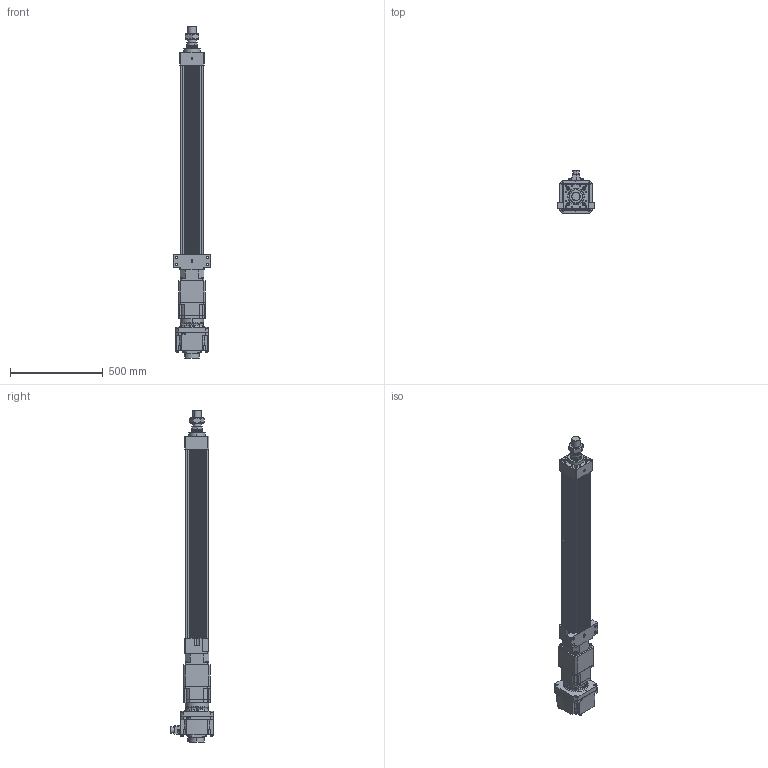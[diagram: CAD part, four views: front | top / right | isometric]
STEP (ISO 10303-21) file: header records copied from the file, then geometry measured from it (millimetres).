
FILE_DESCRIPTION (( 'STEP AP203' ), '1' );
FILE_NAME ('HES130FS(HS)-S800-W020G00-M-FFC.STEP', '2023-01-31T03:34:40', ( 'tms' ), ( '' ), 'SwSTEP 2.0', 'SolidWorks 2013', '' );
FILE_SCHEMA (( 'CONFIG_CONTROL_DESIGN' ));
Length unit declared in the file: millimetre
Products named in the file (9): P1301500001; AB1421; AB142-003[HG-SR352]; HG-SR202; M45X1.5P; HES130FS(HS)-S800-W020G00-M-FFC; HES130-S800-G142-FFC; P0403500801; HES130 ROD M ST800
Assembly tree (8 placements, depth 3):
  HES130FS(HS)-S800-W020G00-M-FFC
    HES130-S800-G142-FFC
    HES130 ROD M ST800
    M45X1.5P
    AB142-003[HG-SR352]
      AB1421
      P1301500001
      P0403500801
    HG-SR202
Bounding box: 200 x 228.85 x 1787.5 mm (x, y, z)
Volume: 15514866.4 mm3; surface area: 2067781.3 mm2
Topology: 4 solids, 22 shells, 1546 faces, 3982 edges, 2565 vertices
Faces by surface type: cylinder 694, plane 586, cone 184, bspline 76, torus 6
Entity records: 55838 total; most frequent: CARTESIAN_POINT 16862, DIRECTION 8160, ORIENTED_EDGE 7822, EDGE_CURVE 3933, AXIS2_PLACEMENT_3D 3080, VERTEX_POINT 2565, LINE 2000, VECTOR 2000
